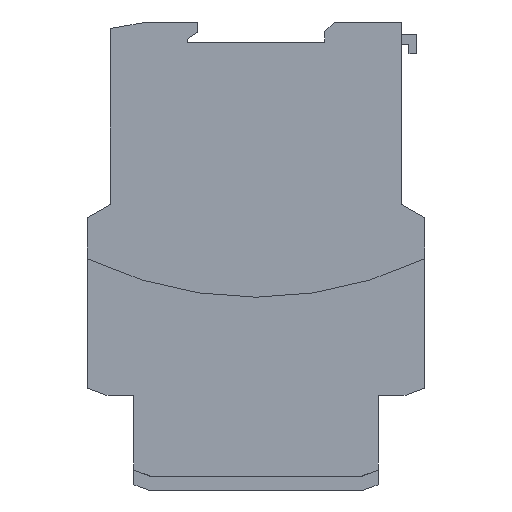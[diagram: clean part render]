
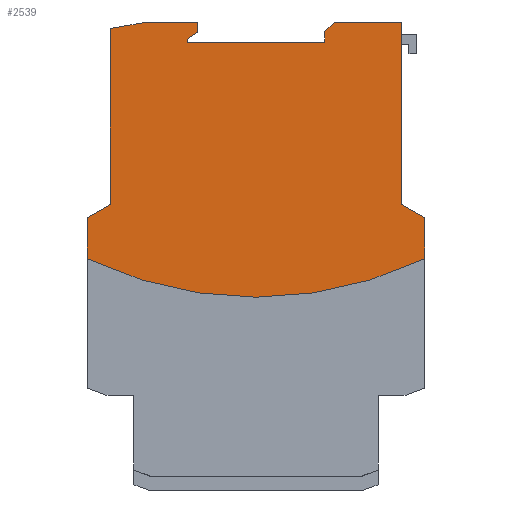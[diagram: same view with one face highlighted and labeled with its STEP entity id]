
A CAD part, front view. The second image highlights one B-rep face of the part: STEP entity #2539.
In plain terms, the highlighted planar face has unit normal (0, -1, 0).
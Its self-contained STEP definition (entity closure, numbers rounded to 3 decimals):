
#161=DIRECTION('',(1.,0.,0.));
#162=VECTOR('',#161,0.25);
#163=CARTESIAN_POINT('',(43.2,-22.4,56.));
#164=LINE('',#163,#162);
#196=DIRECTION('',(0.,0.,1.));
#197=VECTOR('',#196,10.665);
#198=CARTESIAN_POINT('',(-43.45,-22.4,56.));
#199=LINE('',#198,#197);
#203=DIRECTION('',(0.866,0.,0.5));
#204=VECTOR('',#203,6.87);
#205=CARTESIAN_POINT('',(-43.45,-22.4,66.665));
#206=LINE('',#205,#204);
#210=DIRECTION('',(0.,0.,1.));
#211=VECTOR('',#210,45.325);
#212=CARTESIAN_POINT('',(-37.5,-22.4,70.1));
#213=LINE('',#212,#211);
#217=DIRECTION('',(0.985,0.,0.174));
#218=VECTOR('',#217,9.647);
#219=CARTESIAN_POINT('',(-37.5,-22.4,115.425));
#220=LINE('',#219,#218);
#224=DIRECTION('',(1.,0.,0.));
#225=VECTOR('',#224,12.9);
#226=CARTESIAN_POINT('',(-28.,-22.4,117.1));
#227=LINE('',#226,#225);
#231=DIRECTION('',(0.,0.,-1.));
#232=VECTOR('',#231,2.579);
#233=CARTESIAN_POINT('',(-15.1,-22.4,117.1));
#234=LINE('',#233,#232);
#238=DIRECTION('',(-0.819,0.,-0.574));
#239=VECTOR('',#238,3.174);
#240=CARTESIAN_POINT('',(-15.1,-22.4,114.521));
#241=LINE('',#240,#239);
#245=DIRECTION('',(0.,0.,-1.));
#246=VECTOR('',#245,0.8);
#247=CARTESIAN_POINT('',(-17.7,-22.4,112.7));
#248=LINE('',#247,#246);
#252=DIRECTION('',(1.,0.,0.));
#253=VECTOR('',#252,35.4);
#254=CARTESIAN_POINT('',(-17.7,-22.4,111.9));
#255=LINE('',#254,#253);
#259=DIRECTION('',(0.,0.,1.));
#260=VECTOR('',#259,2.7);
#261=CARTESIAN_POINT('',(17.7,-22.4,111.9));
#262=LINE('',#261,#260);
#266=DIRECTION('',(0.707,0.,0.707));
#267=VECTOR('',#266,3.535);
#268=CARTESIAN_POINT('',(17.7,-22.4,114.6));
#269=LINE('',#268,#267);
#273=DIRECTION('',(1.,0.,0.));
#274=VECTOR('',#273,17.3);
#275=CARTESIAN_POINT('',(20.2,-22.4,117.1));
#276=LINE('',#275,#274);
#280=DIRECTION('',(0.,0.,-1.));
#281=VECTOR('',#280,47.);
#282=CARTESIAN_POINT('',(37.5,-22.4,117.1));
#283=LINE('',#282,#281);
#287=DIRECTION('',(0.866,0.,-0.5));
#288=VECTOR('',#287,6.87);
#289=CARTESIAN_POINT('',(37.5,-22.4,70.1));
#290=LINE('',#289,#288);
#294=DIRECTION('',(0.,0.,-1.));
#295=VECTOR('',#294,10.665);
#296=CARTESIAN_POINT('',(43.45,-22.4,66.665));
#297=LINE('',#296,#295);
#301=CARTESIAN_POINT('',(0.,-22.4,146.188));
#302=DIRECTION('',(0.,1.,0.));
#303=DIRECTION('',(0.432,0.,-0.902));
#304=AXIS2_PLACEMENT_3D('',#301,#302,#303);
#331=DIRECTION('',(-1.,0.,0.));
#332=VECTOR('',#331,0.25);
#333=CARTESIAN_POINT('',(-43.2,-22.4,56.));
#334=LINE('',#333,#332);
#2142=CARTESIAN_POINT('',(17.7,-22.4,111.9));
#2143=CARTESIAN_POINT('',(17.7,-22.4,114.6));
#2144=VERTEX_POINT('',#2142);
#2145=VERTEX_POINT('',#2143);
#2146=CARTESIAN_POINT('',(20.2,-22.4,117.1));
#2147=VERTEX_POINT('',#2146);
#2148=CARTESIAN_POINT('',(37.5,-22.4,117.1));
#2149=VERTEX_POINT('',#2148);
#2150=CARTESIAN_POINT('',(37.5,-22.4,70.1));
#2151=VERTEX_POINT('',#2150);
#2152=CARTESIAN_POINT('',(43.45,-22.4,66.665));
#2153=VERTEX_POINT('',#2152);
#2154=CARTESIAN_POINT('',(-43.45,-22.4,66.665));
#2155=CARTESIAN_POINT('',(-37.5,-22.4,70.1));
#2156=VERTEX_POINT('',#2154);
#2157=VERTEX_POINT('',#2155);
#2158=CARTESIAN_POINT('',(-37.5,-22.4,115.425));
#2159=VERTEX_POINT('',#2158);
#2160=CARTESIAN_POINT('',(-28.,-22.4,117.1));
#2161=VERTEX_POINT('',#2160);
#2162=CARTESIAN_POINT('',(-15.1,-22.4,117.1));
#2163=VERTEX_POINT('',#2162);
#2164=CARTESIAN_POINT('',(-15.1,-22.4,114.521));
#2165=VERTEX_POINT('',#2164);
#2166=CARTESIAN_POINT('',(-17.7,-22.4,112.7));
#2167=VERTEX_POINT('',#2166);
#2168=CARTESIAN_POINT('',(-17.7,-22.4,111.9));
#2169=VERTEX_POINT('',#2168);
#2206=CARTESIAN_POINT('',(43.2,-22.4,56.));
#2207=CARTESIAN_POINT('',(-43.2,-22.4,56.));
#2208=VERTEX_POINT('',#2206);
#2209=VERTEX_POINT('',#2207);
#2214=CARTESIAN_POINT('',(43.45,-22.4,56.));
#2215=VERTEX_POINT('',#2214);
#2242=CARTESIAN_POINT('',(-43.45,-22.4,56.));
#2243=VERTEX_POINT('',#2242);
#2497=CARTESIAN_POINT('',(0.,-22.4,0.));
#2498=DIRECTION('',(0.,1.,0.));
#2499=DIRECTION('',(1.,0.,0.));
#2500=AXIS2_PLACEMENT_3D('',#2497,#2498,#2499);
#2501=PLANE('',#2500);
#2503=ORIENTED_EDGE('',*,*,#2502,.T.);
#2505=ORIENTED_EDGE('',*,*,#2504,.T.);
#2507=ORIENTED_EDGE('',*,*,#2506,.T.);
#2509=ORIENTED_EDGE('',*,*,#2508,.T.);
#2511=ORIENTED_EDGE('',*,*,#2510,.T.);
#2513=ORIENTED_EDGE('',*,*,#2512,.T.);
#2515=ORIENTED_EDGE('',*,*,#2514,.T.);
#2517=ORIENTED_EDGE('',*,*,#2516,.T.);
#2519=ORIENTED_EDGE('',*,*,#2518,.T.);
#2521=ORIENTED_EDGE('',*,*,#2520,.T.);
#2523=ORIENTED_EDGE('',*,*,#2522,.T.);
#2525=ORIENTED_EDGE('',*,*,#2524,.T.);
#2527=ORIENTED_EDGE('',*,*,#2526,.T.);
#2529=ORIENTED_EDGE('',*,*,#2528,.T.);
#2531=ORIENTED_EDGE('',*,*,#2530,.T.);
#2533=ORIENTED_EDGE('',*,*,#2532,.T.);
#2535=ORIENTED_EDGE('',*,*,#2534,.T.);
#2536=ORIENTED_EDGE('',*,*,#2479,.F.);
#2537=EDGE_LOOP('',(#2503,#2505,#2507,#2509,#2511,#2513,#2515,#2517,#2519,#2521,
#2523,#2525,#2527,#2529,#2531,#2533,#2535,#2536));
#2538=FACE_OUTER_BOUND('',#2537,.F.);
#305=CIRCLE('',#304,100.);
#2479=EDGE_CURVE('',#2208,#2215,#164,.T.);
#2502=EDGE_CURVE('',#2208,#2209,#305,.T.);
#2504=EDGE_CURVE('',#2209,#2243,#334,.T.);
#2506=EDGE_CURVE('',#2243,#2156,#199,.T.);
#2508=EDGE_CURVE('',#2156,#2157,#206,.T.);
#2510=EDGE_CURVE('',#2157,#2159,#213,.T.);
#2512=EDGE_CURVE('',#2159,#2161,#220,.T.);
#2514=EDGE_CURVE('',#2161,#2163,#227,.T.);
#2516=EDGE_CURVE('',#2163,#2165,#234,.T.);
#2518=EDGE_CURVE('',#2165,#2167,#241,.T.);
#2520=EDGE_CURVE('',#2167,#2169,#248,.T.);
#2522=EDGE_CURVE('',#2169,#2144,#255,.T.);
#2524=EDGE_CURVE('',#2144,#2145,#262,.T.);
#2526=EDGE_CURVE('',#2145,#2147,#269,.T.);
#2528=EDGE_CURVE('',#2147,#2149,#276,.T.);
#2530=EDGE_CURVE('',#2149,#2151,#283,.T.);
#2532=EDGE_CURVE('',#2151,#2153,#290,.T.);
#2534=EDGE_CURVE('',#2153,#2215,#297,.T.);
#2539=ADVANCED_FACE('',(#2538),#2501,.F.);
